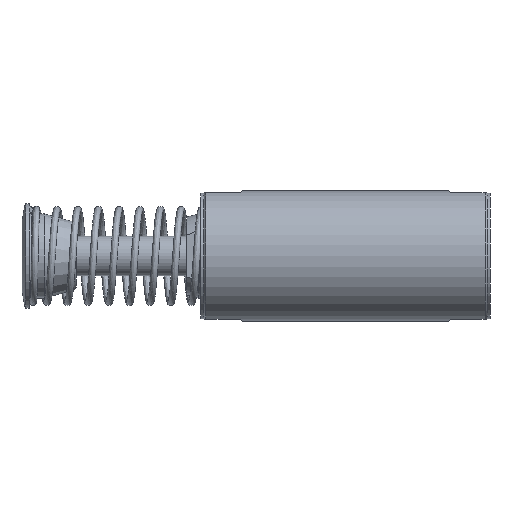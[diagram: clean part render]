
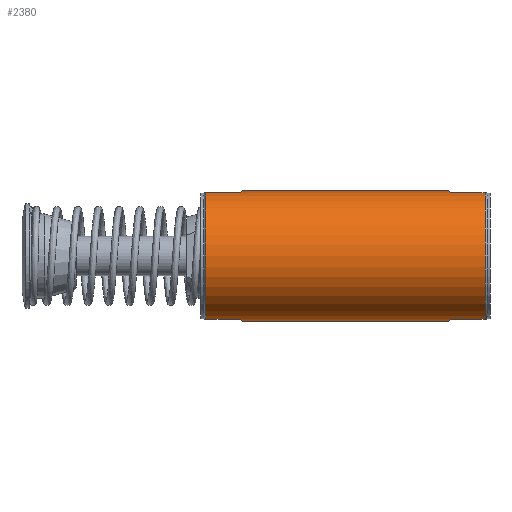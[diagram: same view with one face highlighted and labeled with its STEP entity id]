
A CAD part, front view. The second image highlights one B-rep face of the part: STEP entity #2380.
In plain terms, the highlighted cylindrical face has radius 31.433 mm (diameter 62.865 mm), a partial arc.
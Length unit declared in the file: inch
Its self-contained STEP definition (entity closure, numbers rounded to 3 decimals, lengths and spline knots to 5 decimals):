
#1923 = VERTEX_POINT ( 'NONE', #2788 ) ;
#1924 = VERTEX_POINT ( 'NONE', #2787 ) ;
#1926 = EDGE_CURVE ( 'NONE', #1924, #1978, #2784, .T. ) ;
#1932 = EDGE_CURVE ( 'NONE', #1958, #1954, #2816, .T. ) ;
#1946 = VERTEX_POINT ( 'NONE', #3265 ) ;
#1954 = VERTEX_POINT ( 'NONE', #3288 ) ;
#1958 = VERTEX_POINT ( 'NONE', #3277 ) ;
#1977 = EDGE_CURVE ( 'NONE', #1923, #1946, #3312, .T. ) ;
#1978 = VERTEX_POINT ( 'NONE', #3515 ) ;
#2031 = VERTEX_POINT ( 'NONE', #3508 ) ;
#2221 = VERTEX_POINT ( 'NONE', #4547 ) ;
#2222 = ORIENTED_EDGE ( 'NONE', *, *, #1977, .F. ) ;
#2223 = ORIENTED_EDGE ( 'NONE', *, *, #2255, .T. ) ;
#2226 = ORIENTED_EDGE ( 'NONE', *, *, #2324, .T. ) ;
#2227 = ORIENTED_EDGE ( 'NONE', *, *, #2251, .F. ) ;
#2228 = ORIENTED_EDGE ( 'NONE', *, *, #2374, .T. ) ;
#2229 = ORIENTED_EDGE ( 'NONE', *, *, #2379, .T. ) ;
#2249 = VERTEX_POINT ( 'NONE', #4619 ) ;
#2251 = EDGE_CURVE ( 'NONE', #2249, #2322, #4628, .T. ) ;
#2255 = EDGE_CURVE ( 'NONE', #1923, #2031, #4641, .T. ) ;
#2267 = EDGE_CURVE ( 'NONE', #2269, #1958, #3615, .T. ) ;
#2269 = VERTEX_POINT ( 'NONE', #3617 ) ;
#2314 = EDGE_CURVE ( 'NONE', #2031, #1924, #4688, .T. ) ;
#2322 = VERTEX_POINT ( 'NONE', #4772 ) ;
#2324 = EDGE_CURVE ( 'NONE', #2409, #2322, #4701, .T. ) ;
#2338 = ORIENTED_EDGE ( 'NONE', *, *, #2314, .T. ) ;
#2360 = EDGE_LOOP ( 'NONE', ( #2222, #2223, #2338, #2362, #2363, #2365, #2366, #2367, #2226, #2227, #2228, #2229 ) ) ;
#2362 = ORIENTED_EDGE ( 'NONE', *, *, #1926, .T. ) ;
#2363 = ORIENTED_EDGE ( 'NONE', *, *, #2364, .T. ) ;
#2364 = EDGE_CURVE ( 'NONE', #1978, #2269, #6531, .T. ) ;
#2365 = ORIENTED_EDGE ( 'NONE', *, *, #2267, .T. ) ;
#2366 = ORIENTED_EDGE ( 'NONE', *, *, #1932, .T. ) ;
#2367 = ORIENTED_EDGE ( 'NONE', *, *, #2411, .T. ) ;
#2374 = EDGE_CURVE ( 'NONE', #2249, #2221, #7296, .T. ) ;
#2379 = EDGE_CURVE ( 'NONE', #2221, #1946, #7411, .T. ) ;
#2380 = ADVANCED_FACE ( 'NONE', ( #7611 ), #7774, .T. ) ;
#2409 = VERTEX_POINT ( 'NONE', #9298 ) ;
#2411 = EDGE_CURVE ( 'NONE', #1954, #2409, #9300, .T. ) ;
#2780 = DIRECTION ( 'NONE',  ( 0., 0., 1. ) ) ;
#2781 = DIRECTION ( 'NONE',  ( -1., 0., 0. ) ) ;
#2782 = CARTESIAN_POINT ( 'NONE',  ( 2.6555, 0., 0. ) ) ;
#2783 = AXIS2_PLACEMENT_3D ( 'NONE', #2782, #2781, #2780 ) ;
#2784 = CIRCLE ( 'NONE', #2783, 1.2375 ) ;
#2787 = CARTESIAN_POINT ( 'NONE',  ( 2.6555, -0.28175, -1.205 ) ) ;
#2788 = CARTESIAN_POINT ( 'NONE',  ( 1.9675, 0., -1.2375 ) ) ;
#2808 = CARTESIAN_POINT ( 'NONE',  ( 2.75, 0., 1.2375 ) ) ;
#2811 = VECTOR ( 'NONE', #2820, 39.37008 ) ;
#2816 = LINE ( 'NONE', #2808, #2811 ) ;
#2820 = DIRECTION ( 'NONE',  ( -1., 0., 0. ) ) ;
#3217 = DIRECTION ( 'NONE',  ( -1., 0., 0. ) ) ;
#3265 = CARTESIAN_POINT ( 'NONE',  ( -1.9675, 0., -1.2375 ) ) ;
#3277 = CARTESIAN_POINT ( 'NONE',  ( 1.9675, 0., 1.2375 ) ) ;
#3288 = CARTESIAN_POINT ( 'NONE',  ( -1.9675, 0., 1.2375 ) ) ;
#3310 = VECTOR ( 'NONE', #3217, 39.37008 ) ;
#3311 = CARTESIAN_POINT ( 'NONE',  ( 2.75, 0., -1.2375 ) ) ;
#3312 = LINE ( 'NONE', #3311, #3310 ) ;
#3508 = CARTESIAN_POINT ( 'NONE',  ( 2., -0.28175, -1.205 ) ) ;
#3515 = CARTESIAN_POINT ( 'NONE',  ( 2.6555, -0.28175, 1.205 ) ) ;
#3610 = CARTESIAN_POINT ( 'NONE',  ( 1.9675, 0., 1.2375 ) ) ;
#3611 = CARTESIAN_POINT ( 'NONE',  ( 1.9675, -0.09496, 1.2375 ) ) ;
#3612 = CARTESIAN_POINT ( 'NONE',  ( 1.97838, -0.18929, 1.22662 ) ) ;
#3613 = CARTESIAN_POINT ( 'NONE',  ( 2., -0.28175, 1.205 ) ) ;
#3615 =( BOUNDED_CURVE ( )  B_SPLINE_CURVE ( 3, ( #3613, #3612, #3611, #3610 ),
 .UNSPECIFIED., .F., .T. ) 
 B_SPLINE_CURVE_WITH_KNOTS ( ( 4, 4 ),
 ( 6.0535, 6.28319 ),
 .UNSPECIFIED. ) 
 CURVE ( )  GEOMETRIC_REPRESENTATION_ITEM ( )  RATIONAL_B_SPLINE_CURVE ( ( 1., 0.996, 0.996, 1. ) ) 
 REPRESENTATION_ITEM ( '' )  );
#3617 = CARTESIAN_POINT ( 'NONE',  ( 2., -0.28175, 1.205 ) ) ;
#4547 = CARTESIAN_POINT ( 'NONE',  ( -2., -0.28175, -1.205 ) ) ;
#4619 = CARTESIAN_POINT ( 'NONE',  ( -2.6555, -0.28175, -1.205 ) ) ;
#4623 = CARTESIAN_POINT ( 'NONE',  ( 1.9675, -0.09496, -1.2375 ) ) ;
#4624 = CARTESIAN_POINT ( 'NONE',  ( 1.9675, 0., -1.2375 ) ) ;
#4625 = DIRECTION ( 'NONE',  ( -1., 0., 0. ) ) ;
#4626 = CARTESIAN_POINT ( 'NONE',  ( -2.6555, 0., 0. ) ) ;
#4627 = AXIS2_PLACEMENT_3D ( 'NONE', #4626, #4625, #4642 ) ;
#4628 = CIRCLE ( 'NONE', #4627, 1.2375 ) ;
#4632 = CARTESIAN_POINT ( 'NONE',  ( 2., -0.28175, -1.205 ) ) ;
#4633 = CARTESIAN_POINT ( 'NONE',  ( 1.97838, -0.18929, -1.22662 ) ) ;
#4641 =( BOUNDED_CURVE ( )  B_SPLINE_CURVE ( 3, ( #4624, #4623, #4633, #4632 ),
 .UNSPECIFIED., .F., .F. ) 
 B_SPLINE_CURVE_WITH_KNOTS ( ( 4, 4 ),
 ( 0., 0.22969 ),
 .UNSPECIFIED. ) 
 CURVE ( )  GEOMETRIC_REPRESENTATION_ITEM ( )  RATIONAL_B_SPLINE_CURVE ( ( 1., 0.996, 0.996, 1. ) ) 
 REPRESENTATION_ITEM ( '' )  );
#4642 = DIRECTION ( 'NONE',  ( 0., 0., 1. ) ) ;
#4688 = LINE ( 'NONE', #4691, #4690 ) ;
#4689 = DIRECTION ( 'NONE',  ( 1., 0., 0. ) ) ;
#4690 = VECTOR ( 'NONE', #4689, 39.37008 ) ;
#4691 = CARTESIAN_POINT ( 'NONE',  ( 2.75, -0.28175, -1.205 ) ) ;
#4699 = VECTOR ( 'NONE', #4771, 39.37008 ) ;
#4700 = CARTESIAN_POINT ( 'NONE',  ( 2.75, -0.28175, 1.205 ) ) ;
#4701 = LINE ( 'NONE', #4700, #4699 ) ;
#4771 = DIRECTION ( 'NONE',  ( -1., 0., 0. ) ) ;
#4772 = CARTESIAN_POINT ( 'NONE',  ( -2.6555, -0.28175, 1.205 ) ) ;
#6460 = CARTESIAN_POINT ( 'NONE',  ( 2.75, -0.28175, 1.205 ) ) ;
#6531 = LINE ( 'NONE', #6460, #6680 ) ;
#6679 = DIRECTION ( 'NONE',  ( -1., 0., 0. ) ) ;
#6680 = VECTOR ( 'NONE', #6679, 39.37008 ) ;
#7243 = DIRECTION ( 'NONE',  ( 1., 0., 0. ) ) ;
#7244 = VECTOR ( 'NONE', #7243, 39.37008 ) ;
#7246 = CARTESIAN_POINT ( 'NONE',  ( 2.75, -0.28175, -1.205 ) ) ;
#7296 = LINE ( 'NONE', #7246, #7244 ) ;
#7411 =( BOUNDED_CURVE ( )  B_SPLINE_CURVE ( 3, ( #7631, #7646, #7645, #7663 ),
 .UNSPECIFIED., .F., .F. ) 
 B_SPLINE_CURVE_WITH_KNOTS ( ( 4, 4 ),
 ( 2.9119, 3.14159 ),
 .UNSPECIFIED. ) 
 CURVE ( )  GEOMETRIC_REPRESENTATION_ITEM ( )  RATIONAL_B_SPLINE_CURVE ( ( 1., 0.996, 0.996, 1. ) ) 
 REPRESENTATION_ITEM ( '' )  );
#7611 = FACE_OUTER_BOUND ( 'NONE', #2360, .T. ) ;
#7631 = CARTESIAN_POINT ( 'NONE',  ( -2., -0.28175, -1.205 ) ) ;
#7645 = CARTESIAN_POINT ( 'NONE',  ( -1.9675, -0.09496, -1.2375 ) ) ;
#7646 = CARTESIAN_POINT ( 'NONE',  ( -1.97838, -0.18929, -1.22662 ) ) ;
#7663 = CARTESIAN_POINT ( 'NONE',  ( -1.9675, 0., -1.2375 ) ) ;
#7769 = CARTESIAN_POINT ( 'NONE',  ( 2.75, 0., 0. ) ) ;
#7771 = DIRECTION ( 'NONE',  ( 0., 0., 1. ) ) ;
#7772 = DIRECTION ( 'NONE',  ( -1., 0., 0. ) ) ;
#7773 = AXIS2_PLACEMENT_3D ( 'NONE', #7769, #7772, #7771 ) ;
#7774 = CYLINDRICAL_SURFACE ( 'NONE', #7773, 1.2375 ) ;
#9287 = CARTESIAN_POINT ( 'NONE',  ( -2., -0.28175, 1.205 ) ) ;
#9288 = CARTESIAN_POINT ( 'NONE',  ( -1.97838, -0.18929, 1.22662 ) ) ;
#9298 = CARTESIAN_POINT ( 'NONE',  ( -2., -0.28175, 1.205 ) ) ;
#9300 =( BOUNDED_CURVE ( )  B_SPLINE_CURVE ( 3, ( #9305, #9360, #9288, #9287 ),
 .UNSPECIFIED., .F., .F. ) 
 B_SPLINE_CURVE_WITH_KNOTS ( ( 4, 4 ),
 ( 3.14159, 3.37128 ),
 .UNSPECIFIED. ) 
 CURVE ( )  GEOMETRIC_REPRESENTATION_ITEM ( )  RATIONAL_B_SPLINE_CURVE ( ( 1., 0.996, 0.996, 1. ) ) 
 REPRESENTATION_ITEM ( '' )  );
#9305 = CARTESIAN_POINT ( 'NONE',  ( -1.9675, 0., 1.2375 ) ) ;
#9360 = CARTESIAN_POINT ( 'NONE',  ( -1.9675, -0.09496, 1.2375 ) ) ;
